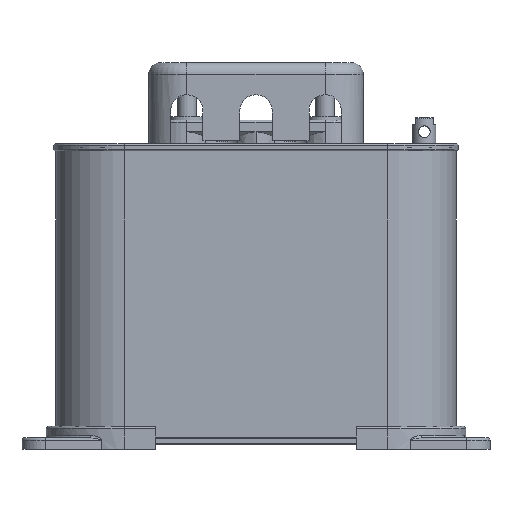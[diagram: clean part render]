
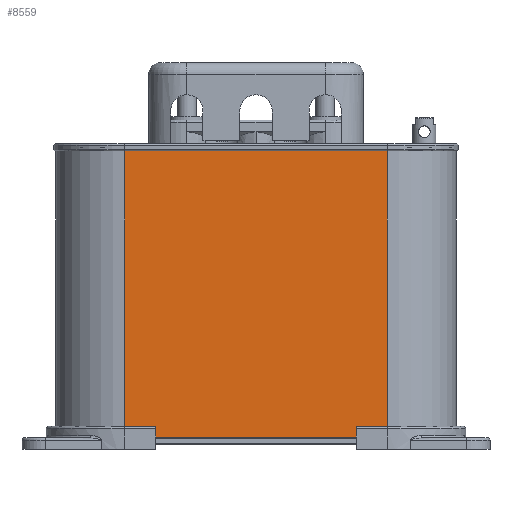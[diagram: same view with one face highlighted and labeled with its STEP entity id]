
A CAD part, front view. The second image highlights one B-rep face of the part: STEP entity #8559.
In plain terms, the highlighted planar face has unit normal (0, -1, 0).
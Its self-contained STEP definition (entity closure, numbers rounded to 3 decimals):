
#685=DIRECTION('',(-1.,0.,0.));
#686=VECTOR('',#685,13.5);
#687=CARTESIAN_POINT('',(57.,-29.78,-57.28));
#688=LINE('',#687,#686);
#689=DIRECTION('',(0.,0.,1.));
#690=VECTOR('',#689,4.);
#691=CARTESIAN_POINT('',(43.5,-29.78,-61.28));
#692=LINE('',#691,#690);
#693=DIRECTION('',(0.707,0.,-0.707));
#694=VECTOR('',#693,0.707);
#695=CARTESIAN_POINT('',(43.5,-29.78,-61.28));
#696=LINE('',#695,#694);
#697=DIRECTION('',(-1.,0.,0.));
#698=VECTOR('',#697,13.);
#699=CARTESIAN_POINT('',(57.,-29.78,-61.78));
#700=LINE('',#699,#698);
#701=DIRECTION('',(1.,0.,0.));
#702=VECTOR('',#701,114.);
#703=CARTESIAN_POINT('',(-57.,-29.78,-62.68));
#704=LINE('',#703,#702);
#705=DIRECTION('',(1.,0.,0.));
#706=VECTOR('',#705,13.);
#707=CARTESIAN_POINT('',(-57.,-29.78,-61.78));
#708=LINE('',#707,#706);
#709=DIRECTION('',(-0.707,0.,-0.707));
#710=VECTOR('',#709,0.707);
#711=CARTESIAN_POINT('',(-43.5,-29.78,-61.28));
#712=LINE('',#711,#710);
#713=DIRECTION('',(0.,0.,1.));
#714=VECTOR('',#713,4.);
#715=CARTESIAN_POINT('',(-43.5,-29.78,-61.28));
#716=LINE('',#715,#714);
#717=DIRECTION('',(1.,0.,0.));
#718=VECTOR('',#717,13.5);
#719=CARTESIAN_POINT('',(-57.,-29.78,-57.28));
#720=LINE('',#719,#718);
#721=DIRECTION('',(-1.,0.,0.));
#722=VECTOR('',#721,114.);
#723=CARTESIAN_POINT('',(57.,-29.78,62.68));
#724=LINE('',#723,#722);
#751=DIRECTION('',(0.,0.,1.));
#752=VECTOR('',#751,119.96);
#753=CARTESIAN_POINT('',(57.,-29.78,-57.28));
#754=LINE('',#753,#752);
#789=DIRECTION('',(0.,0.,-1.));
#790=VECTOR('',#789,119.96);
#791=CARTESIAN_POINT('',(-57.,-29.78,62.68));
#792=LINE('',#791,#790);
#874=DIRECTION('',(0.,0.,-1.));
#875=VECTOR('',#874,0.9);
#876=CARTESIAN_POINT('',(-57.,-29.78,-61.78));
#877=LINE('',#876,#875);
#912=DIRECTION('',(0.,0.,1.));
#913=VECTOR('',#912,0.9);
#914=CARTESIAN_POINT('',(57.,-29.78,-62.68));
#915=LINE('',#914,#913);
#6290=CARTESIAN_POINT('',(-57.,-29.78,-62.68));
#6292=VERTEX_POINT('',#6290);
#6293=CARTESIAN_POINT('',(57.,-29.78,-62.68));
#6294=VERTEX_POINT('',#6293);
#6458=CARTESIAN_POINT('',(-57.,-29.78,62.68));
#6460=VERTEX_POINT('',#6458);
#6461=CARTESIAN_POINT('',(57.,-29.78,62.68));
#6462=VERTEX_POINT('',#6461);
#6881=CARTESIAN_POINT('',(-57.,-29.78,-57.28));
#6883=VERTEX_POINT('',#6881);
#6885=CARTESIAN_POINT('',(-57.,-29.78,-61.78));
#6887=VERTEX_POINT('',#6885);
#6888=CARTESIAN_POINT('',(-43.5,-29.78,-57.28));
#6889=VERTEX_POINT('',#6888);
#6890=CARTESIAN_POINT('',(-43.5,-29.78,-61.28));
#6891=VERTEX_POINT('',#6890);
#6892=CARTESIAN_POINT('',(-44.,-29.78,-61.78));
#6893=VERTEX_POINT('',#6892);
#7193=CARTESIAN_POINT('',(57.,-29.78,-57.28));
#7194=CARTESIAN_POINT('',(43.5,-29.78,-57.28));
#7195=VERTEX_POINT('',#7193);
#7196=VERTEX_POINT('',#7194);
#7197=CARTESIAN_POINT('',(43.5,-29.78,-61.28));
#7198=VERTEX_POINT('',#7197);
#7199=CARTESIAN_POINT('',(57.,-29.78,-61.78));
#7200=CARTESIAN_POINT('',(44.,-29.78,-61.78));
#7201=VERTEX_POINT('',#7199);
#7202=VERTEX_POINT('',#7200);
#8525=CARTESIAN_POINT('',(-57.,-29.78,64.72));
#8526=DIRECTION('',(0.,-1.,0.));
#8527=DIRECTION('',(0.,0.,-1.));
#8528=AXIS2_PLACEMENT_3D('',#8525,#8526,#8527);
#8529=PLANE('',#8528);
#8531=ORIENTED_EDGE('',*,*,#8530,.T.);
#8532=ORIENTED_EDGE('',*,*,#8497,.F.);
#8534=ORIENTED_EDGE('',*,*,#8533,.T.);
#8536=ORIENTED_EDGE('',*,*,#8535,.F.);
#8538=ORIENTED_EDGE('',*,*,#8537,.F.);
#8540=ORIENTED_EDGE('',*,*,#8539,.F.);
#8542=ORIENTED_EDGE('',*,*,#8541,.F.);
#8544=ORIENTED_EDGE('',*,*,#8543,.T.);
#8546=ORIENTED_EDGE('',*,*,#8545,.F.);
#8548=ORIENTED_EDGE('',*,*,#8547,.T.);
#8550=ORIENTED_EDGE('',*,*,#8549,.F.);
#8552=ORIENTED_EDGE('',*,*,#8551,.F.);
#8554=ORIENTED_EDGE('',*,*,#8553,.F.);
#8556=ORIENTED_EDGE('',*,*,#8555,.F.);
#8557=EDGE_LOOP('',(#8531,#8532,#8534,#8536,#8538,#8540,#8542,#8544,#8546,#8548,
#8550,#8552,#8554,#8556));
#8558=FACE_OUTER_BOUND('',#8557,.F.);
#8559=ADVANCED_FACE('',(#8558),#8529,.T.);
#8497=EDGE_CURVE('',#7198,#7196,#692,.T.);
#8530=EDGE_CURVE('',#7195,#7196,#688,.T.);
#8533=EDGE_CURVE('',#7198,#7202,#696,.T.);
#8535=EDGE_CURVE('',#7201,#7202,#700,.T.);
#8537=EDGE_CURVE('',#6294,#7201,#915,.T.);
#8539=EDGE_CURVE('',#6292,#6294,#704,.T.);
#8541=EDGE_CURVE('',#6887,#6292,#877,.T.);
#8543=EDGE_CURVE('',#6887,#6893,#708,.T.);
#8545=EDGE_CURVE('',#6891,#6893,#712,.T.);
#8547=EDGE_CURVE('',#6891,#6889,#716,.T.);
#8549=EDGE_CURVE('',#6883,#6889,#720,.T.);
#8551=EDGE_CURVE('',#6460,#6883,#792,.T.);
#8553=EDGE_CURVE('',#6462,#6460,#724,.T.);
#8555=EDGE_CURVE('',#7195,#6462,#754,.T.);
